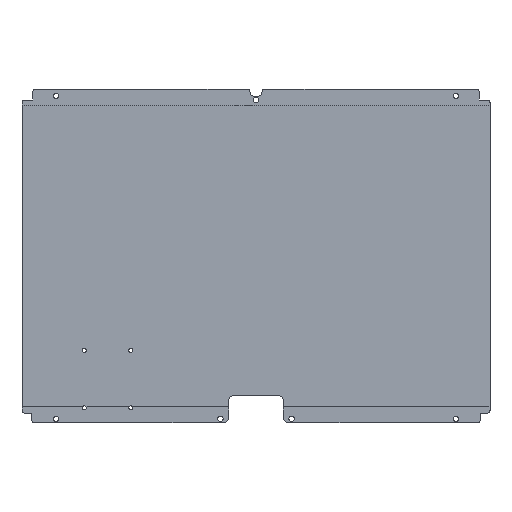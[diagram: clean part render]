
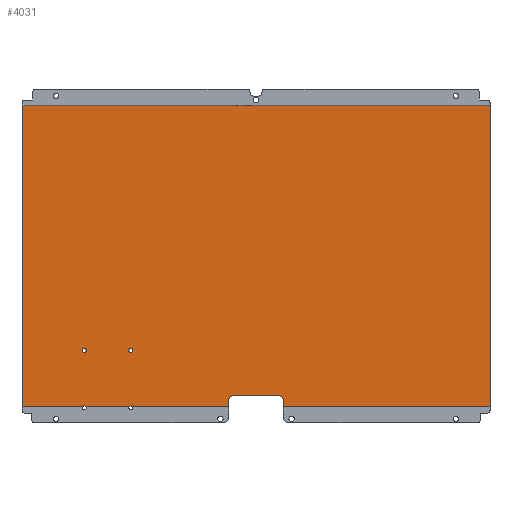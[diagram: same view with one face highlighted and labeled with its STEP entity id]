
A CAD part, front view. The second image highlights one B-rep face of the part: STEP entity #4031.
In plain terms, the highlighted planar face has unit normal (0, -1, 0).
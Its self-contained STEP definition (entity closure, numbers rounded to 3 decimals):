
#1340=CARTESIAN_POINT('',(-62.75,-0.25,-37.5));
#1341=DIRECTION('',(0.,1.,0.));
#1342=DIRECTION('',(-1.,0.,0.));
#1343=AXIS2_PLACEMENT_3D('',#1340,#1341,#1342);
#1345=CARTESIAN_POINT('',(-62.75,-0.25,-37.5));
#1346=DIRECTION('',(0.,1.,0.));
#1347=DIRECTION('',(1.,0.,0.));
#1348=AXIS2_PLACEMENT_3D('',#1345,#1346,#1347);
#1350=CARTESIAN_POINT('',(-45.75,-0.25,-37.5));
#1351=DIRECTION('',(0.,1.,0.));
#1352=DIRECTION('',(-1.,0.,0.));
#1353=AXIS2_PLACEMENT_3D('',#1350,#1351,#1352);
#1355=CARTESIAN_POINT('',(-45.75,-0.25,-37.5));
#1356=DIRECTION('',(0.,1.,0.));
#1357=DIRECTION('',(1.,0.,0.));
#1358=AXIS2_PLACEMENT_3D('',#1355,#1356,#1357);
#1360=CARTESIAN_POINT('',(-62.75,-0.25,-58.5));
#1361=DIRECTION('',(0.,1.,0.));
#1362=DIRECTION('',(-0.846,0.,0.533));
#1363=AXIS2_PLACEMENT_3D('',#1360,#1361,#1362);
#1365=DIRECTION('',(-1.,0.,0.));
#1366=VECTOR('',#1365,22.116);
#1367=CARTESIAN_POINT('',(-63.384,-0.25,-58.1));
#1368=LINE('',#1367,#1366);
#1369=DIRECTION('',(0.,0.,1.));
#1370=VECTOR('',#1369,110.2);
#1371=CARTESIAN_POINT('',(-85.5,-0.25,-58.1));
#1372=LINE('',#1371,#1370);
#1373=DIRECTION('',(-1.,0.,0.));
#1374=VECTOR('',#1373,171.);
#1375=CARTESIAN_POINT('',(85.5,-0.25,52.1));
#1376=LINE('',#1375,#1374);
#1377=DIRECTION('',(0.,0.,-1.));
#1378=VECTOR('',#1377,110.2);
#1379=CARTESIAN_POINT('',(85.5,-0.25,52.1));
#1380=LINE('',#1379,#1378);
#1381=DIRECTION('',(-1.,0.,0.));
#1382=VECTOR('',#1381,75.5);
#1383=CARTESIAN_POINT('',(85.5,-0.25,-58.1));
#1384=LINE('',#1383,#1382);
#1385=DIRECTION('',(0.,0.,1.));
#1386=VECTOR('',#1385,2.1);
#1387=CARTESIAN_POINT('',(10.,-0.25,-58.1));
#1388=LINE('',#1387,#1386);
#1389=DIRECTION('',(1.,0.,0.));
#1390=VECTOR('',#1389,16.);
#1391=CARTESIAN_POINT('',(-8.,-0.25,-54.));
#1392=LINE('',#1391,#1390);
#1393=DIRECTION('',(0.,0.,1.));
#1394=VECTOR('',#1393,2.1);
#1395=CARTESIAN_POINT('',(-10.,-0.25,-58.1));
#1396=LINE('',#1395,#1394);
#1397=DIRECTION('',(-1.,0.,0.));
#1398=VECTOR('',#1397,35.116);
#1399=CARTESIAN_POINT('',(-10.,-0.25,-58.1));
#1400=LINE('',#1399,#1398);
#1401=CARTESIAN_POINT('',(-45.75,-0.25,-58.5));
#1402=DIRECTION('',(0.,1.,0.));
#1403=DIRECTION('',(-0.846,0.,0.533));
#1404=AXIS2_PLACEMENT_3D('',#1401,#1402,#1403);
#1406=DIRECTION('',(-1.,0.,0.));
#1407=VECTOR('',#1406,15.731);
#1408=CARTESIAN_POINT('',(-46.384,-0.25,-58.1));
#1409=LINE('',#1408,#1407);
#1583=CARTESIAN_POINT('',(8.,-0.25,-56.));
#1584=DIRECTION('',(0.,1.,0.));
#1585=DIRECTION('',(0.,0.,1.));
#1586=AXIS2_PLACEMENT_3D('',#1583,#1584,#1585);
#1601=CARTESIAN_POINT('',(-8.,-0.25,-56.));
#1602=DIRECTION('',(0.,1.,0.));
#1603=DIRECTION('',(-1.,0.,0.));
#1604=AXIS2_PLACEMENT_3D('',#1601,#1602,#1603);
#2382=CARTESIAN_POINT('',(-10.,-0.25,-58.1));
#2383=VERTEX_POINT('',#2382);
#2384=CARTESIAN_POINT('',(10.,-0.25,-58.1));
#2385=VERTEX_POINT('',#2384);
#2386=CARTESIAN_POINT('',(-8.,-0.25,-54.));
#2387=VERTEX_POINT('',#2386);
#2388=CARTESIAN_POINT('',(-10.,-0.25,-56.));
#2389=VERTEX_POINT('',#2388);
#2390=CARTESIAN_POINT('',(10.,-0.25,-56.));
#2391=VERTEX_POINT('',#2390);
#2392=CARTESIAN_POINT('',(8.,-0.25,-54.));
#2393=VERTEX_POINT('',#2392);
#2394=CARTESIAN_POINT('',(-63.5,-0.25,-37.5));
#2395=CARTESIAN_POINT('',(-62.,-0.25,-37.5));
#2396=VERTEX_POINT('',#2394);
#2397=VERTEX_POINT('',#2395);
#2398=CARTESIAN_POINT('',(-46.5,-0.25,-37.5));
#2399=CARTESIAN_POINT('',(-45.,-0.25,-37.5));
#2400=VERTEX_POINT('',#2398);
#2401=VERTEX_POINT('',#2399);
#2402=CARTESIAN_POINT('',(-63.384,-0.25,-58.1));
#2403=CARTESIAN_POINT('',(-62.116,-0.25,-58.1));
#2404=VERTEX_POINT('',#2402);
#2405=VERTEX_POINT('',#2403);
#2406=CARTESIAN_POINT('',(-46.384,-0.25,-58.1));
#2407=CARTESIAN_POINT('',(-45.116,-0.25,-58.1));
#2408=VERTEX_POINT('',#2406);
#2409=VERTEX_POINT('',#2407);
#2574=CARTESIAN_POINT('',(85.5,-0.25,52.1));
#2575=CARTESIAN_POINT('',(-85.5,-0.25,52.1));
#2576=VERTEX_POINT('',#2574);
#2577=VERTEX_POINT('',#2575);
#2578=CARTESIAN_POINT('',(85.5,-0.25,-58.1));
#2579=VERTEX_POINT('',#2578);
#2580=CARTESIAN_POINT('',(-85.5,-0.25,-58.1));
#2581=VERTEX_POINT('',#2580);
#3987=CARTESIAN_POINT('',(0.,-0.25,0.));
#3988=DIRECTION('',(0.,1.,0.));
#3989=DIRECTION('',(-1.,0.,0.));
#3990=AXIS2_PLACEMENT_3D('',#3987,#3988,#3989);
#3991=PLANE('',#3990);
#3993=ORIENTED_EDGE('',*,*,#3992,.F.);
#3995=ORIENTED_EDGE('',*,*,#3994,.T.);
#3996=ORIENTED_EDGE('',*,*,#3857,.T.);
#3997=ORIENTED_EDGE('',*,*,#3979,.F.);
#3998=ORIENTED_EDGE('',*,*,#3645,.T.);
#4000=ORIENTED_EDGE('',*,*,#3999,.T.);
#4002=ORIENTED_EDGE('',*,*,#4001,.T.);
#4004=ORIENTED_EDGE('',*,*,#4003,.F.);
#4006=ORIENTED_EDGE('',*,*,#4005,.F.);
#4008=ORIENTED_EDGE('',*,*,#4007,.F.);
#4010=ORIENTED_EDGE('',*,*,#4009,.F.);
#4012=ORIENTED_EDGE('',*,*,#4011,.T.);
#4014=ORIENTED_EDGE('',*,*,#4013,.F.);
#4016=ORIENTED_EDGE('',*,*,#4015,.T.);
#4017=EDGE_LOOP('',(#3993,#3995,#3996,#3997,#3998,#4000,#4002,#4004,#4006,#4008,
#4010,#4012,#4014,#4016));
#4018=FACE_OUTER_BOUND('',#4017,.F.);
#4020=ORIENTED_EDGE('',*,*,#4019,.F.);
#4022=ORIENTED_EDGE('',*,*,#4021,.F.);
#4023=EDGE_LOOP('',(#4020,#4022));
#4024=FACE_BOUND('',#4023,.F.);
#4026=ORIENTED_EDGE('',*,*,#4025,.F.);
#4028=ORIENTED_EDGE('',*,*,#4027,.F.);
#4029=EDGE_LOOP('',(#4026,#4028));
#4030=FACE_BOUND('',#4029,.F.);
#1344=CIRCLE('',#1343,0.75);
#1349=CIRCLE('',#1348,0.75);
#1354=CIRCLE('',#1353,0.75);
#1359=CIRCLE('',#1358,0.75);
#1364=CIRCLE('',#1363,0.75);
#1405=CIRCLE('',#1404,0.75);
#1587=CIRCLE('',#1586,2.);
#1605=CIRCLE('',#1604,2.);
#3645=EDGE_CURVE('',#2576,#2579,#1380,.T.);
#3857=EDGE_CURVE('',#2581,#2577,#1372,.T.);
#3979=EDGE_CURVE('',#2576,#2577,#1376,.T.);
#3992=EDGE_CURVE('',#2404,#2405,#1364,.T.);
#3994=EDGE_CURVE('',#2404,#2581,#1368,.T.);
#3999=EDGE_CURVE('',#2579,#2385,#1384,.T.);
#4001=EDGE_CURVE('',#2385,#2391,#1388,.T.);
#4003=EDGE_CURVE('',#2393,#2391,#1587,.T.);
#4005=EDGE_CURVE('',#2387,#2393,#1392,.T.);
#4007=EDGE_CURVE('',#2389,#2387,#1605,.T.);
#4009=EDGE_CURVE('',#2383,#2389,#1396,.T.);
#4011=EDGE_CURVE('',#2383,#2409,#1400,.T.);
#4013=EDGE_CURVE('',#2408,#2409,#1405,.T.);
#4015=EDGE_CURVE('',#2408,#2405,#1409,.T.);
#4019=EDGE_CURVE('',#2400,#2401,#1354,.T.);
#4021=EDGE_CURVE('',#2401,#2400,#1359,.T.);
#4025=EDGE_CURVE('',#2396,#2397,#1344,.T.);
#4027=EDGE_CURVE('',#2397,#2396,#1349,.T.);
#4031=ADVANCED_FACE('',(#4018,#4024,#4030),#3991,.F.);
